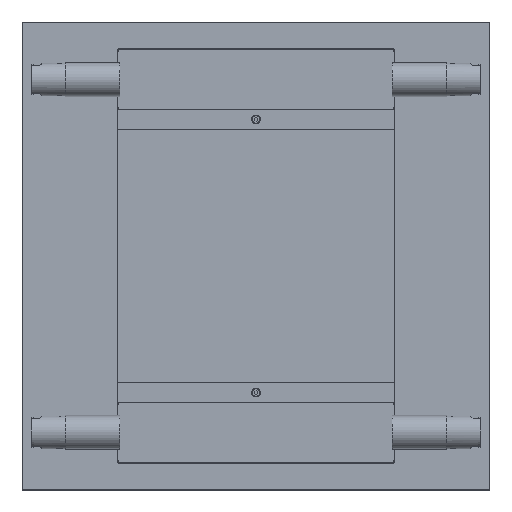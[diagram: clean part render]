
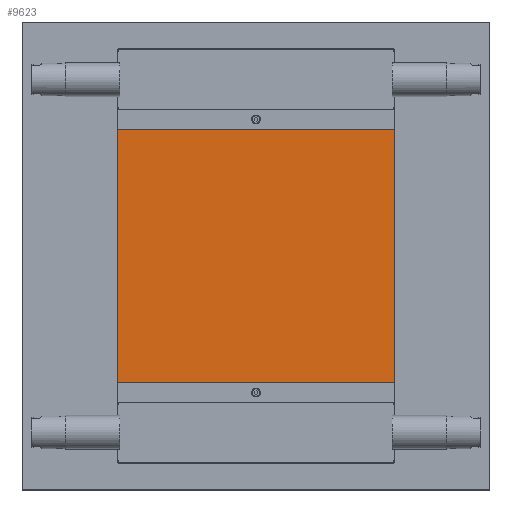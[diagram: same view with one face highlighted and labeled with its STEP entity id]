
A CAD part, top view. The second image highlights one B-rep face of the part: STEP entity #9623.
In plain terms, the highlighted planar face has unit normal (0, 0, 1).
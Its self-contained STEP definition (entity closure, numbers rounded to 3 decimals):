
#9460=DIRECTION('',(0.,-1.,0.));
#9461=VECTOR('',#9460,162.2);
#9462=CARTESIAN_POINT('',(88.5,81.1,27.75));
#9463=LINE('',#9462,#9461);
#9464=DIRECTION('',(-1.,0.,0.));
#9465=VECTOR('',#9464,178.);
#9466=CARTESIAN_POINT('',(88.5,-81.1,27.75));
#9467=LINE('',#9466,#9465);
#9468=DIRECTION('',(0.,1.,0.));
#9469=VECTOR('',#9468,162.2);
#9470=CARTESIAN_POINT('',(-89.5,-81.1,27.75));
#9471=LINE('',#9470,#9469);
#9472=DIRECTION('',(1.,0.,0.));
#9473=VECTOR('',#9472,178.);
#9474=CARTESIAN_POINT('',(-89.5,81.1,27.75));
#9475=LINE('',#9474,#9473);
#9568=CARTESIAN_POINT('',(88.5,81.1,27.75));
#9569=CARTESIAN_POINT('',(88.5,-81.1,27.75));
#9570=VERTEX_POINT('',#9568);
#9571=VERTEX_POINT('',#9569);
#9572=CARTESIAN_POINT('',(-89.5,-81.1,27.75));
#9573=VERTEX_POINT('',#9572);
#9574=CARTESIAN_POINT('',(-89.5,81.1,27.75));
#9575=VERTEX_POINT('',#9574);
#9608=CARTESIAN_POINT('',(-0.5,0.,27.75));
#9609=DIRECTION('',(0.,0.,-1.));
#9610=DIRECTION('',(0.,-1.,0.));
#9611=AXIS2_PLACEMENT_3D('',#9608,#9609,#9610);
#9612=PLANE('',#9611);
#9614=ORIENTED_EDGE('',*,*,#9613,.T.);
#9616=ORIENTED_EDGE('',*,*,#9615,.T.);
#9618=ORIENTED_EDGE('',*,*,#9617,.T.);
#9620=ORIENTED_EDGE('',*,*,#9619,.T.);
#9621=EDGE_LOOP('',(#9614,#9616,#9618,#9620));
#9622=FACE_OUTER_BOUND('',#9621,.F.);
#9623=ADVANCED_FACE('',(#9622),#9612,.F.);
#9613=EDGE_CURVE('',#9570,#9571,#9463,.T.);
#9615=EDGE_CURVE('',#9571,#9573,#9467,.T.);
#9617=EDGE_CURVE('',#9573,#9575,#9471,.T.);
#9619=EDGE_CURVE('',#9575,#9570,#9475,.T.);
